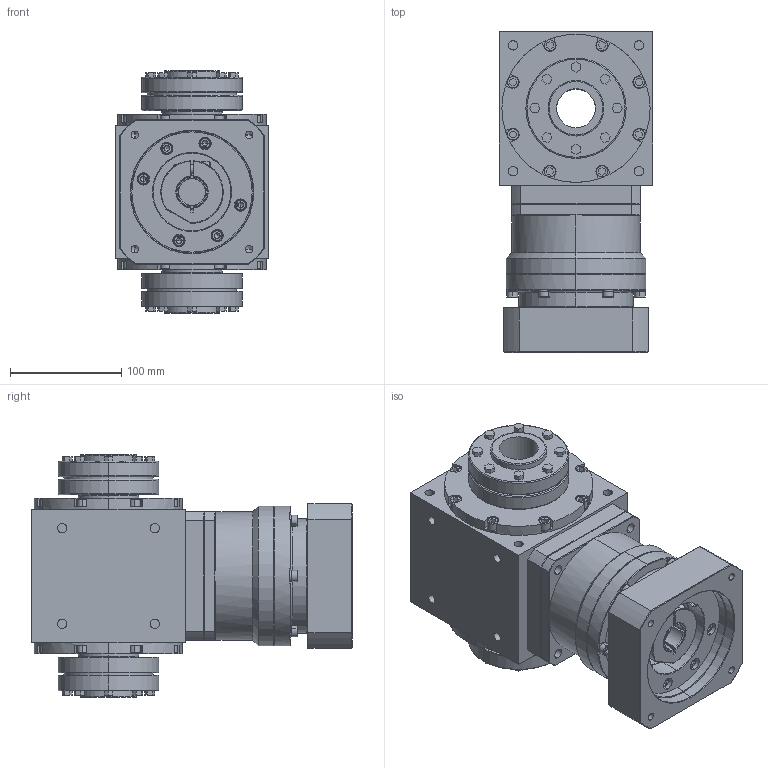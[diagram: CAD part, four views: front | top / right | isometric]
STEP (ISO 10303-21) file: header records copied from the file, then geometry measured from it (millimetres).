
FILE_DESCRIPTION (( 'STEP AP203' ), '1' );
FILE_NAME ('AAW135AS-L1-2HP 24-110-145-M8.STEP', '2024-12-24T06:07:59', ( '' ), ( '' ), 'SwSTEP 2.0', 'SolidWorks 2021', '' );
FILE_SCHEMA (( 'CONFIG_CONTROL_DESIGN' ));
Length unit declared in the file: millimetre
Products named in the file (3): AAW135AS-2HP; AAW135AS-L1-2HP 24-110-145-M8; VRB-115-L1-S2-P1 24-110-145-M8
Assembly tree (2 placements, depth 2):
  AAW135AS-L1-2HP 24-110-145-M8
    AAW135AS-2HP
    VRB-115-L1-S2-P1 24-110-145-M8
Bounding box: 138 x 288 x 218 mm (x, y, z)
Volume: 4320026.2 mm3; surface area: 388000 mm2
Topology: 32 solids, 32 shells, 1294 faces, 3136 edges, 1989 vertices
Faces by surface type: plane 706, cylinder 382, cone 152, torus 54
Entity records: 38591 total; most frequent: CARTESIAN_POINT 7499, DIRECTION 6710, ORIENTED_EDGE 6172, EDGE_CURVE 3086, AXIS2_PLACEMENT_3D 2486, VERTEX_POINT 1987, VECTOR 1738, LINE 1738
